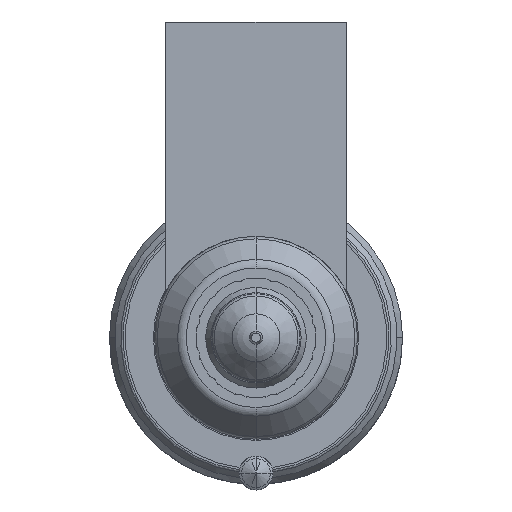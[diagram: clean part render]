
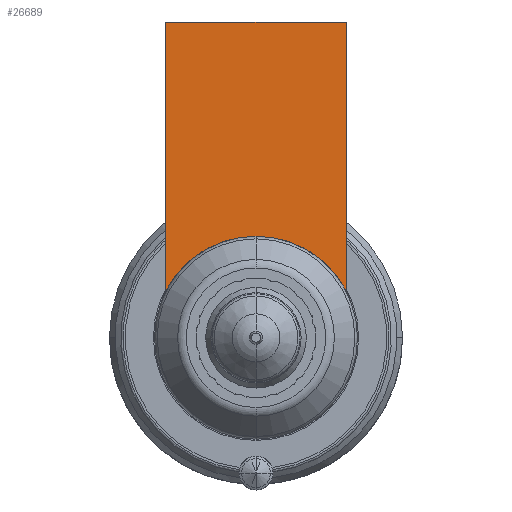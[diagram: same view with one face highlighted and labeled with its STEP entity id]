
A CAD part, front view. The second image highlights one B-rep face of the part: STEP entity #26689.
In plain terms, the highlighted planar face has unit normal (0, -1, 0).
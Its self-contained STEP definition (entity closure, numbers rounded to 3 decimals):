
#25808=DIRECTION('',(1.,0.,0.));
#25809=VECTOR('',#25808,16.);
#25810=CARTESIAN_POINT('',(-8.,-54.,28.));
#25811=LINE('',#25810,#25809);
#25816=CARTESIAN_POINT('',(0.,-54.,0.));
#25817=DIRECTION('',(0.,-1.,0.));
#25818=DIRECTION('',(0.889,0.,0.458));
#25819=AXIS2_PLACEMENT_3D('',#25816,#25817,#25818);
#25824=CARTESIAN_POINT('',(0.,-54.,0.));
#25825=DIRECTION('',(0.,-1.,0.));
#25826=DIRECTION('',(0.,0.,1.));
#25827=AXIS2_PLACEMENT_3D('',#25824,#25825,#25826);
#25853=DIRECTION('',(0.,0.,-1.));
#25854=VECTOR('',#25853,23.877);
#25855=CARTESIAN_POINT('',(-8.,-54.,28.));
#25856=LINE('',#25855,#25854);
#26533=DIRECTION('',(0.,0.,-1.));
#26534=VECTOR('',#26533,23.877);
#26535=CARTESIAN_POINT('',(8.,-54.,28.));
#26536=LINE('',#26535,#26534);
#26586=CARTESIAN_POINT('',(-8.,-54.,28.));
#26587=VERTEX_POINT('',#26586);
#26592=CARTESIAN_POINT('',(8.,-54.,28.));
#26593=VERTEX_POINT('',#26592);
#26596=CARTESIAN_POINT('',(-8.,-54.,4.123));
#26597=VERTEX_POINT('',#26596);
#26600=CARTESIAN_POINT('',(8.,-54.,4.123));
#26601=VERTEX_POINT('',#26600);
#26670=CARTESIAN_POINT('',(0.,-54.,9.));
#26671=VERTEX_POINT('',#26670);
#26672=CARTESIAN_POINT('',(0.,-54.,9.));
#26673=DIRECTION('',(0.,1.,0.));
#26674=DIRECTION('',(0.,0.,-1.));
#26675=AXIS2_PLACEMENT_3D('',#26672,#26673,#26674);
#26676=PLANE('',#26675);
#26678=ORIENTED_EDGE('',*,*,#26677,.F.);
#26680=ORIENTED_EDGE('',*,*,#26679,.T.);
#26682=ORIENTED_EDGE('',*,*,#26681,.T.);
#26684=ORIENTED_EDGE('',*,*,#26683,.T.);
#26686=ORIENTED_EDGE('',*,*,#26685,.T.);
#26687=EDGE_LOOP('',(#26678,#26680,#26682,#26684,#26686));
#26688=FACE_OUTER_BOUND('',#26687,.F.);
#26689=ADVANCED_FACE('',(#26688),#26676,.F.);
#25820=CIRCLE('',#25819,9.);
#25828=CIRCLE('',#25827,9.);
#26677=EDGE_CURVE('',#26587,#26597,#25856,.T.);
#26679=EDGE_CURVE('',#26587,#26593,#25811,.T.);
#26681=EDGE_CURVE('',#26593,#26601,#26536,.T.);
#26683=EDGE_CURVE('',#26601,#26671,#25820,.T.);
#26685=EDGE_CURVE('',#26671,#26597,#25828,.T.);
